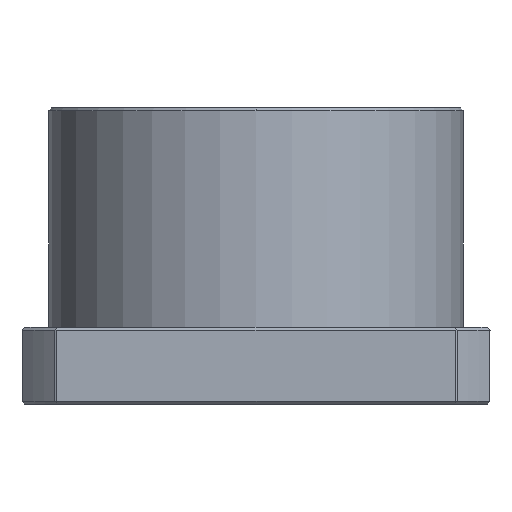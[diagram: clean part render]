
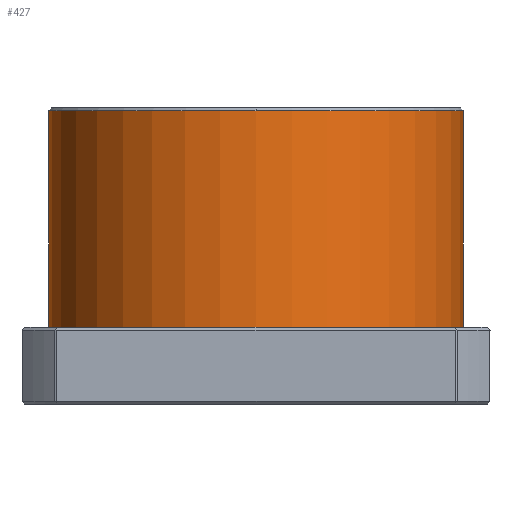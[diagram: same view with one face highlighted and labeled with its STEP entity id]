
A CAD part, left-side view. The second image highlights one B-rep face of the part: STEP entity #427.
In plain terms, the highlighted cylindrical face has radius 35 mm (diameter 70 mm), a partial arc.
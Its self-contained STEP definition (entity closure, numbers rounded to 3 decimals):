
#323 = VERTEX_POINT ( 'NONE', #2541 ) ;
#324 = VERTEX_POINT ( 'NONE', #2540 ) ;
#326 = EDGE_CURVE ( 'NONE', #324, #355, #2539, .T. ) ;
#355 = VERTEX_POINT ( 'NONE', #2610 ) ;
#361 = VERTEX_POINT ( 'NONE', #2598 ) ;
#363 = EDGE_CURVE ( 'NONE', #323, #361, #2597, .T. ) ;
#427 = ADVANCED_FACE ( 'NONE', ( #2717 ), #2716, .T. ) ;
#428 = EDGE_LOOP ( 'NONE', ( #1276, #1277, #1279, #1280, #1281 ) ) ;
#444 = EDGE_CURVE ( 'NONE', #355, #445, #2753, .T. ) ;
#445 = VERTEX_POINT ( 'NONE', #2748 ) ;
#453 = EDGE_CURVE ( 'NONE', #445, #361, #2797, .T. ) ;
#1276 = ORIENTED_EDGE ( 'NONE', *, *, #326, .F. ) ;
#1277 = ORIENTED_EDGE ( 'NONE', *, *, #1278, .T. ) ;
#1278 = EDGE_CURVE ( 'NONE', #324, #323, #4303, .T. ) ;
#1279 = ORIENTED_EDGE ( 'NONE', *, *, #363, .T. ) ;
#1280 = ORIENTED_EDGE ( 'NONE', *, *, #453, .F. ) ;
#1281 = ORIENTED_EDGE ( 'NONE', *, *, #444, .F. ) ;
#2536 = DIRECTION ( 'NONE',  ( 0., 0., 1. ) ) ;
#2537 = VECTOR ( 'NONE', #2536, 1000. ) ;
#2538 = CARTESIAN_POINT ( 'NONE',  ( 0., 35., 13. ) ) ;
#2539 = LINE ( 'NONE', #2538, #2537 ) ;
#2540 = CARTESIAN_POINT ( 'NONE',  ( 0., 35., 13. ) ) ;
#2541 = CARTESIAN_POINT ( 'NONE',  ( 0., -35., 13. ) ) ;
#2594 = DIRECTION ( 'NONE',  ( 0., 0., 1. ) ) ;
#2595 = VECTOR ( 'NONE', #2594, 1000. ) ;
#2596 = CARTESIAN_POINT ( 'NONE',  ( 0., -35., 13. ) ) ;
#2597 = LINE ( 'NONE', #2596, #2595 ) ;
#2598 = CARTESIAN_POINT ( 'NONE',  ( 0., -35., 49.5 ) ) ;
#2610 = CARTESIAN_POINT ( 'NONE',  ( 0., 35., 49.5 ) ) ;
#2712 = DIRECTION ( 'NONE',  ( 0., -1., 0. ) ) ;
#2713 = DIRECTION ( 'NONE',  ( 0., 0., 1. ) ) ;
#2714 = CARTESIAN_POINT ( 'NONE',  ( 0., 0., 13. ) ) ;
#2715 = AXIS2_PLACEMENT_3D ( 'NONE', #2714, #2713, #2712 ) ;
#2716 = CYLINDRICAL_SURFACE ( 'NONE', #2715, 35. ) ;
#2717 = FACE_OUTER_BOUND ( 'NONE', #428, .T. ) ;
#2748 = CARTESIAN_POINT ( 'NONE',  ( -35., 0., 49.5 ) ) ;
#2749 = DIRECTION ( 'NONE',  ( -1., 0., 0. ) ) ;
#2750 = DIRECTION ( 'NONE',  ( 0., 0., 1. ) ) ;
#2751 = CARTESIAN_POINT ( 'NONE',  ( 0., 0., 49.5 ) ) ;
#2752 = AXIS2_PLACEMENT_3D ( 'NONE', #2751, #2750, #2749 ) ;
#2753 = CIRCLE ( 'NONE', #2752, 35. ) ;
#2793 = DIRECTION ( 'NONE',  ( -1., 0., 0. ) ) ;
#2794 = DIRECTION ( 'NONE',  ( 0., 0., 1. ) ) ;
#2795 = CARTESIAN_POINT ( 'NONE',  ( 0., 0., 49.5 ) ) ;
#2796 = AXIS2_PLACEMENT_3D ( 'NONE', #2795, #2794, #2793 ) ;
#2797 = CIRCLE ( 'NONE', #2796, 35. ) ;
#4300 = DIRECTION ( 'NONE',  ( 0., -1., 0. ) ) ;
#4301 = DIRECTION ( 'NONE',  ( 0., 0., 1. ) ) ;
#4302 = AXIS2_PLACEMENT_3D ( 'NONE', #4309, #4301, #4300 ) ;
#4303 = CIRCLE ( 'NONE', #4302, 35. ) ;
#4309 = CARTESIAN_POINT ( 'NONE',  ( 0., 0., 13. ) ) ;
